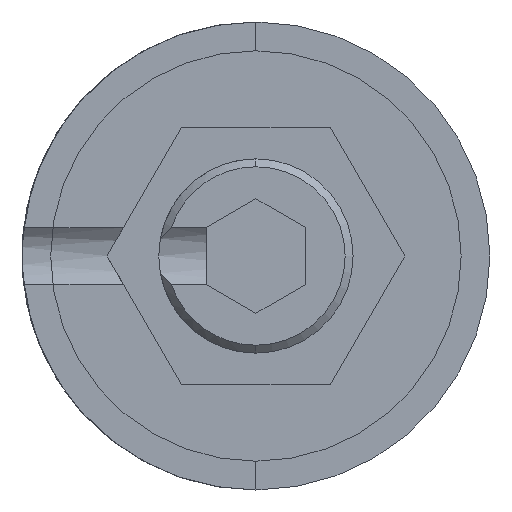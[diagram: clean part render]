
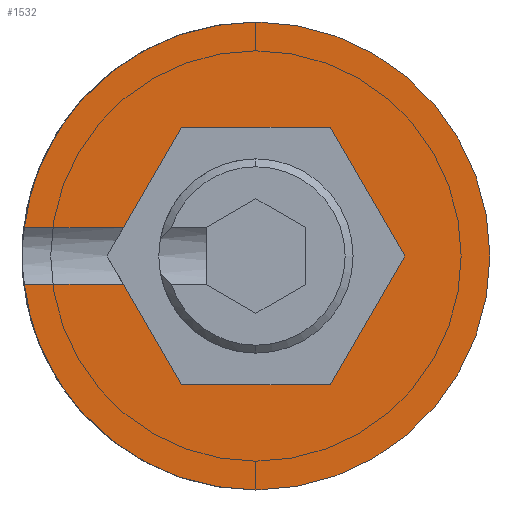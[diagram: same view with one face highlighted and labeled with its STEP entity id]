
A CAD part, front view. The second image highlights one B-rep face of the part: STEP entity #1532.
In plain terms, the highlighted planar face has unit normal (0, -1, 0).
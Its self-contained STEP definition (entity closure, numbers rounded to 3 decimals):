
#546 = DIRECTION ( 'NONE',  ( 0.5, 0., -0.866 ) ) ;
#547 = VECTOR ( 'NONE', #546, 1000. ) ;
#548 = CARTESIAN_POINT ( 'NONE',  ( -3.753, 0., 0. ) ) ;
#549 = LINE ( 'NONE', #548, #547 ) ;
#564 = CARTESIAN_POINT ( 'NONE',  ( -5.857, 0., 0.714 ) ) ;
#595 = CARTESIAN_POINT ( 'NONE',  ( 3.753, 0., 0. ) ) ;
#601 = DIRECTION ( 'NONE',  ( 1., 0., 0. ) ) ;
#602 = VECTOR ( 'NONE', #601, 1000. ) ;
#613 = CARTESIAN_POINT ( 'NONE',  ( -1.876, 0., -3.25 ) ) ;
#614 = DIRECTION ( 'NONE',  ( 1., 0., 0. ) ) ;
#615 = VECTOR ( 'NONE', #614, 1000. ) ;
#616 = CARTESIAN_POINT ( 'NONE',  ( -1.876, 0., -3.25 ) ) ;
#617 = LINE ( 'NONE', #616, #615 ) ;
#618 = CARTESIAN_POINT ( 'NONE',  ( 1.876, 0., -3.25 ) ) ;
#619 = DIRECTION ( 'NONE',  ( 0.5, 0., 0.866 ) ) ;
#622 = DIRECTION ( 'NONE',  ( -0.5, 0., 0.866 ) ) ;
#623 = VECTOR ( 'NONE', #622, 1000. ) ;
#624 = CARTESIAN_POINT ( 'NONE',  ( 3.753, 0., 0. ) ) ;
#625 = LINE ( 'NONE', #624, #623 ) ;
#626 = CARTESIAN_POINT ( 'NONE',  ( 1.876, 0., 3.25 ) ) ;
#627 = DIRECTION ( 'NONE',  ( -1., 0., 0. ) ) ;
#628 = VECTOR ( 'NONE', #627, 1000. ) ;
#629 = CARTESIAN_POINT ( 'NONE',  ( 1.876, 0., 3.25 ) ) ;
#630 = LINE ( 'NONE', #629, #628 ) ;
#645 = CARTESIAN_POINT ( 'NONE',  ( -6., 0., -0.714 ) ) ;
#651 = LINE ( 'NONE', #645, #602 ) ;
#652 = CARTESIAN_POINT ( 'NONE',  ( -3.34, 0., -0.714 ) ) ;
#653 = DIRECTION ( 'NONE',  ( 0., 0., -1. ) ) ;
#654 = DIRECTION ( 'NONE',  ( 0., -1., 0. ) ) ;
#655 = CARTESIAN_POINT ( 'NONE',  ( 0., 0., 0. ) ) ;
#656 = AXIS2_PLACEMENT_3D ( 'NONE', #655, #654, #653 ) ;
#657 = PLANE ( 'NONE',  #656 ) ;
#658 = FACE_OUTER_BOUND ( 'NONE', #1570, .T. ) ;
#662 = VECTOR ( 'NONE', #619, 1000. ) ;
#663 = CARTESIAN_POINT ( 'NONE',  ( 1.876, 0., -3.25 ) ) ;
#664 = LINE ( 'NONE', #663, #662 ) ;
#717 = DIRECTION ( 'NONE',  ( 0., 0., -1. ) ) ;
#718 = DIRECTION ( 'NONE',  ( 0., -1., 0. ) ) ;
#719 = CARTESIAN_POINT ( 'NONE',  ( 0., 0., 0. ) ) ;
#720 = AXIS2_PLACEMENT_3D ( 'NONE', #719, #718, #717 ) ;
#730 = CIRCLE ( 'NONE', #720, 5.9 ) ;
#750 = CARTESIAN_POINT ( 'NONE',  ( -1.876, 0., 3.25 ) ) ;
#751 = DIRECTION ( 'NONE',  ( -0.5, 0., -0.866 ) ) ;
#752 = VECTOR ( 'NONE', #751, 1000. ) ;
#753 = CARTESIAN_POINT ( 'NONE',  ( -1.876, 0., 3.25 ) ) ;
#756 = LINE ( 'NONE', #753, #752 ) ;
#757 = CARTESIAN_POINT ( 'NONE',  ( -3.34, 0., 0.714 ) ) ;
#758 = DIRECTION ( 'NONE',  ( -1., 0., 0. ) ) ;
#759 = VECTOR ( 'NONE', #758, 1000. ) ;
#760 = CARTESIAN_POINT ( 'NONE',  ( -6., 0., 0.714 ) ) ;
#770 = LINE ( 'NONE', #760, #759 ) ;
#787 = VERTEX_POINT ( 'NONE', #2007 ) ;
#791 = VERTEX_POINT ( 'NONE', #1996 ) ;
#795 = EDGE_CURVE ( 'NONE', #791, #787, #1995, .T. ) ;
#799 = VERTEX_POINT ( 'NONE', #1984 ) ;
#803 = EDGE_CURVE ( 'NONE', #799, #791, #1947, .T. ) ;
#1493 = VERTEX_POINT ( 'NONE', #564 ) ;
#1494 = ORIENTED_EDGE ( 'NONE', *, *, #1589, .F. ) ;
#1496 = EDGE_CURVE ( 'NONE', #1534, #1552, #549, .T. ) ;
#1532 = ADVANCED_FACE ( 'NONE', ( #658 ), #657, .T. ) ;
#1533 = ORIENTED_EDGE ( 'NONE', *, *, #1539, .F. ) ;
#1534 = VERTEX_POINT ( 'NONE', #652 ) ;
#1539 = EDGE_CURVE ( 'NONE', #799, #1534, #651, .T. ) ;
#1540 = ORIENTED_EDGE ( 'NONE', *, *, #803, .T. ) ;
#1541 = ORIENTED_EDGE ( 'NONE', *, *, #795, .T. ) ;
#1546 = VERTEX_POINT ( 'NONE', #595 ) ;
#1547 = ORIENTED_EDGE ( 'NONE', *, *, #1548, .F. ) ;
#1548 = EDGE_CURVE ( 'NONE', #1549, #1546, #664, .T. ) ;
#1549 = VERTEX_POINT ( 'NONE', #618 ) ;
#1550 = ORIENTED_EDGE ( 'NONE', *, *, #1551, .F. ) ;
#1551 = EDGE_CURVE ( 'NONE', #1552, #1549, #617, .T. ) ;
#1552 = VERTEX_POINT ( 'NONE', #613 ) ;
#1562 = EDGE_CURVE ( 'NONE', #1563, #1593, #630, .T. ) ;
#1563 = VERTEX_POINT ( 'NONE', #626 ) ;
#1564 = ORIENTED_EDGE ( 'NONE', *, *, #1565, .F. ) ;
#1565 = EDGE_CURVE ( 'NONE', #1546, #1563, #625, .T. ) ;
#1570 = EDGE_LOOP ( 'NONE', ( #1533, #1540, #1541, #1605, #1494, #1591, #1594, #1564, #1547, #1550, #1595 ) ) ;
#1589 = EDGE_CURVE ( 'NONE', #1590, #1493, #770, .T. ) ;
#1590 = VERTEX_POINT ( 'NONE', #757 ) ;
#1591 = ORIENTED_EDGE ( 'NONE', *, *, #1592, .F. ) ;
#1592 = EDGE_CURVE ( 'NONE', #1593, #1590, #756, .T. ) ;
#1593 = VERTEX_POINT ( 'NONE', #750 ) ;
#1594 = ORIENTED_EDGE ( 'NONE', *, *, #1562, .F. ) ;
#1595 = ORIENTED_EDGE ( 'NONE', *, *, #1496, .F. ) ;
#1605 = ORIENTED_EDGE ( 'NONE', *, *, #1606, .T. ) ;
#1606 = EDGE_CURVE ( 'NONE', #787, #1493, #730, .T. ) ;
#1943 = DIRECTION ( 'NONE',  ( 0., 0., -1. ) ) ;
#1944 = DIRECTION ( 'NONE',  ( 0., -1., 0. ) ) ;
#1945 = CARTESIAN_POINT ( 'NONE',  ( 0., 0., 0. ) ) ;
#1946 = AXIS2_PLACEMENT_3D ( 'NONE', #1945, #1944, #1943 ) ;
#1947 = CIRCLE ( 'NONE', #1946, 5.9 ) ;
#1984 = CARTESIAN_POINT ( 'NONE',  ( -5.857, 0., -0.714 ) ) ;
#1991 = DIRECTION ( 'NONE',  ( 0., 0., -1. ) ) ;
#1992 = DIRECTION ( 'NONE',  ( 0., -1., 0. ) ) ;
#1993 = CARTESIAN_POINT ( 'NONE',  ( 0., 0., 0. ) ) ;
#1994 = AXIS2_PLACEMENT_3D ( 'NONE', #1993, #1992, #1991 ) ;
#1995 = CIRCLE ( 'NONE', #1994, 5.9 ) ;
#1996 = CARTESIAN_POINT ( 'NONE',  ( 0., 0., -5.9 ) ) ;
#2007 = CARTESIAN_POINT ( 'NONE',  ( 0., 0., 5.9 ) ) ;
